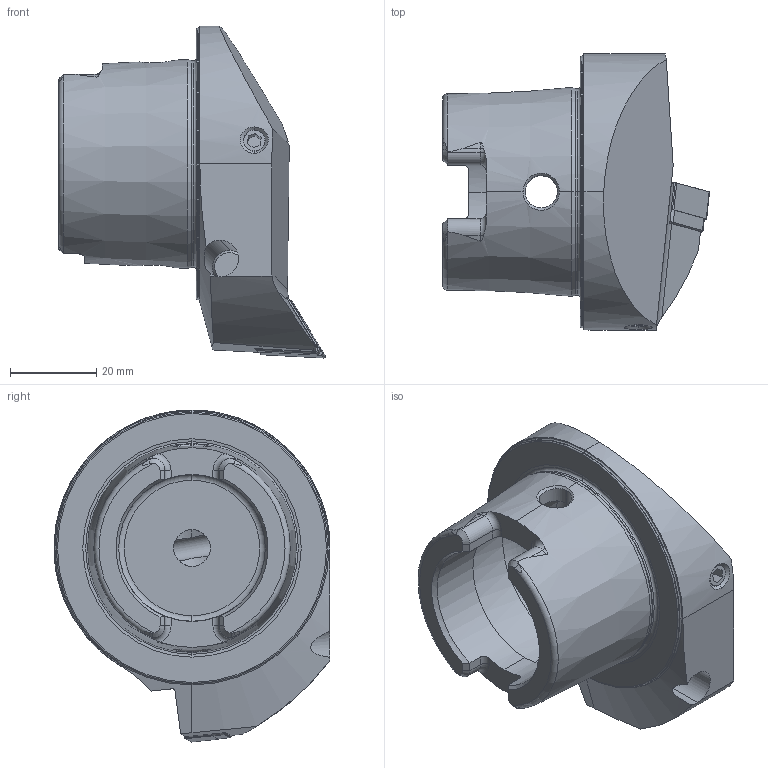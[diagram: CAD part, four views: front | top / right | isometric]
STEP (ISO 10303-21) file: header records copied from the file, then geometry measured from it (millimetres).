
FILE_DESCRIPTION (( 'STEP AP214' ), '1' );
FILE_NAME ('HA6.PDF.RJA.030.STEP', '2022-03-28T11:32:07', ( '' ), ( '' ), 'SwSTEP 2.0', 'SolidWorks 2017', '' );
FILE_SCHEMA (( 'AUTOMOTIVE_DESIGN' ));
Length unit declared in the file: millimetre
Products named in the file (8): WCD-ER1.101.000; WCD-ER4.101.017_A; HA6-PDF.RJA.030_A; WDF-ER2.101.003_A; WDF-ER3.101.000_A; HA6.PDF.RJA.030; DNMG150604; ISO 4026 - M6 x 6
Assembly tree (7 placements, depth 2):
  HA6.PDF.RJA.030
    HA6-PDF.RJA.030_A
    WDF-ER2.101.003_A
    WCD-ER4.101.017_A
    WCD-ER1.101.000
    WDF-ER3.101.000_A
    ISO 4026 - M6 x 6
    DNMG150604
Bounding box: 61.9 x 64 x 77 mm (x, y, z)
Volume: 69512.5 mm3; surface area: 25271.9 mm2
Topology: 7 solids, 7 shells, 305 faces, 776 edges, 474 vertices
Faces by surface type: plane 105, cylinder 84, cone 68, torus 32, bspline 16
Entity records: 10865 total; most frequent: CARTESIAN_POINT 3414, ORIENTED_EDGE 1536, DIRECTION 1417, EDGE_CURVE 768, AXIS2_PLACEMENT_3D 541, VERTEX_POINT 474, VECTOR 335, LINE 335
